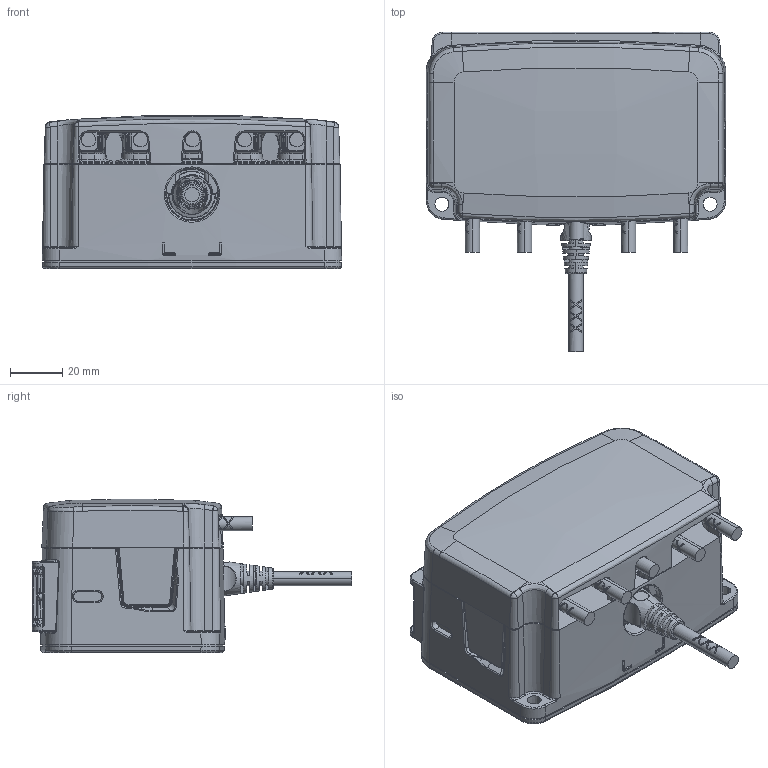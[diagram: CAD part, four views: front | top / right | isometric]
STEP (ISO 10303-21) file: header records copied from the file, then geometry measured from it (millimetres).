
FILE_DESCRIPTION((''),'2;1');
FILE_NAME('1088W4000-LEFT-WITHOUT-LABELS_ASM','2025-12-16T15:56:22',('jmo'),(''),'CREO PARAMETRIC BY PTC INC, 2022024','CREO PARAMETRIC BY PTC INC, 2022024','');
FILE_SCHEMA(('AUTOMOTIVE_DESIGN { 1 0 10303 214 1 1 1 1 }'));
Products named in the file (21): SHELL-1088W1001-1088W1007_1_1; SHELL-1088W1003_1_1; SHELL-0273018_AF0_1_1_1; SHELL-0273018_AF0_1_2_1; SHELL-0273018_AF0_1_ASM_1_ASM; SHELL-0273018_AF1_1_1_1; SHELL-0273018_AF1_1_2_1; SHELL-0273018_AF1_1_ASM_1_ASM; SHELL-0273018_AF2_1_1_1; SHELL-0273018_AF2_1_2_1; SHELL-0273018_AF2_1_ASM_1_ASM; SHELL-0273018_AF3_1_1_1; SHELL-0273018_AF3_1_2_1; SHELL-0273018_AF3_1_ASM_1_ASM; SHELL-0273090_AF0_1_1_1; SHELL-0273090_AF0_1_2_1; SHELL-0273090_AF0_1_ASM_1_ASM; SHELL-0273017_AF0_1_1; 1088W4000_ASM_1_ASM_1_ASM; 1088W4000-LEFT_ASM_1_ASM; 1088W4000-LEFT-WITHOUT-LABELS_ASM
Assembly tree (20 placements, depth 5):
  1088W4000-LEFT-WITHOUT-LABELS_ASM
    1088W4000-LEFT_ASM_1_ASM
      1088W4000_ASM_1_ASM_1_ASM
        SHELL-1088W1001-1088W1007_1_1
        SHELL-1088W1003_1_1
        SHELL-0273018_AF0_1_ASM_1_ASM
          SHELL-0273018_AF0_1_1_1
          SHELL-0273018_AF0_1_2_1
        SHELL-0273018_AF1_1_ASM_1_ASM
          SHELL-0273018_AF1_1_1_1
          SHELL-0273018_AF1_1_2_1
        SHELL-0273018_AF2_1_ASM_1_ASM
          SHELL-0273018_AF2_1_1_1
          SHELL-0273018_AF2_1_2_1
        SHELL-0273018_AF3_1_ASM_1_ASM
          SHELL-0273018_AF3_1_1_1
          SHELL-0273018_AF3_1_2_1
        SHELL-0273090_AF0_1_ASM_1_ASM
          SHELL-0273090_AF0_1_1_1
          SHELL-0273090_AF0_1_2_1
        SHELL-0273017_AF0_1_1
Bounding box: 115 x 122.7 x 58.78 mm (x, y, z)
Volume: 374004.6 mm3; surface area: 94890.2 mm2
Topology: 13 solids, 13 shells, 5612 faces, 14392 edges, 8835 vertices
Faces by surface type: plane 2482, cylinder 1376, torus 783, bspline 614, cone 212, sphere 129, revolution 10, extrusion 6
Entity records: 208268 total; most frequent: CARTESIAN_POINT 78867, ORIENTED_EDGE 28526, DIRECTION 24513, EDGE_CURVE 14263, VERTEX_POINT 8835, AXIS2_PLACEMENT_3D 8807, VECTOR 6889, LINE 6883
